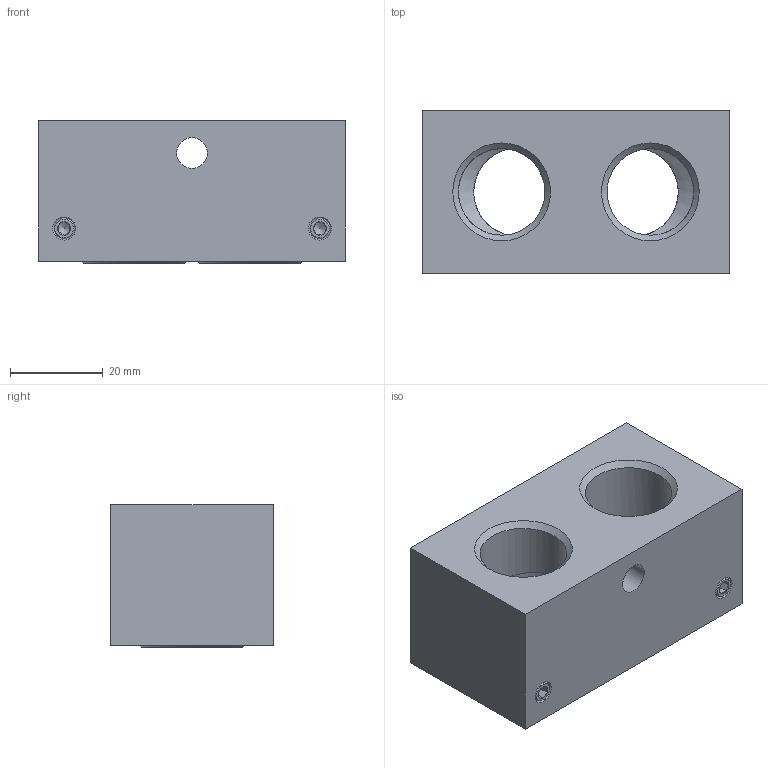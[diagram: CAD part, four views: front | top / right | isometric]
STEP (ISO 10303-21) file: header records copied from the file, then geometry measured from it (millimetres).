
FILE_DESCRIPTION(/* description */ ('Unknown','CAx-IF Rec.Pracs.---Representation and Presentation of Product Manufacturing Information (PMI)---4.0---2014-10-13','CAx-IF Rec.Pracs.---3D Tessellated Geometry---0.4---2014-09-14','2;1'),/* implementation_level */ '2;1');
FILE_NAME(/* name */ 'R 3 103 GR',/* time_stamp */ '2019-05-23T08:18:58+02:00',/* author */ ('Unknown'),/* organization */ ('Unknown'),/* preprocessor_version */ 'ST-DEVELOPER v16.7',/* originating_system */ 'DEX',/* authorisation */ $);
FILE_SCHEMA (('AP242_MANAGED_MODEL_BASED_3D_ENGINEERING_MIM_LF { 1 0 10303 442 20130219 1 4 }'));
Length unit declared in the file: millimetre
Products named in the file (4): R 3 103 GR; DIN914-A2-M5X10; AR 3 103 GR; O-Ring 19x2 NBR70
Assembly tree (5 placements, depth 2):
  R 3 103 GR
    DIN914-A2-M5X10  x2
    AR 3 103 GR
    O-Ring 19x2 NBR70  x2
Bounding box: 66 x 35 x 30.75 mm (x, y, z)
Volume: 50460.3 mm3; surface area: 15914.6 mm2
Topology: 5 solids, 5 shells, 80 faces, 200 edges, 130 vertices
Faces by surface type: plane 34, cone 22, cylinder 16, bspline 6, torus 2
Full cylindrical faces by diameter (mm): 4.134 x2, 5 x4, 6.6 x1, 18.631 x2, 19 x2, 23 x2
Entity records: 2636 total; most frequent: CARTESIAN_POINT 701, DIRECTION 263, ORIENTED_EDGE 260, EDGE_CURVE 130, FACE_BOUND 105, AXIS2_PLACEMENT_3D 105, EDGE_LOOP 101, VERTEX_POINT 99
